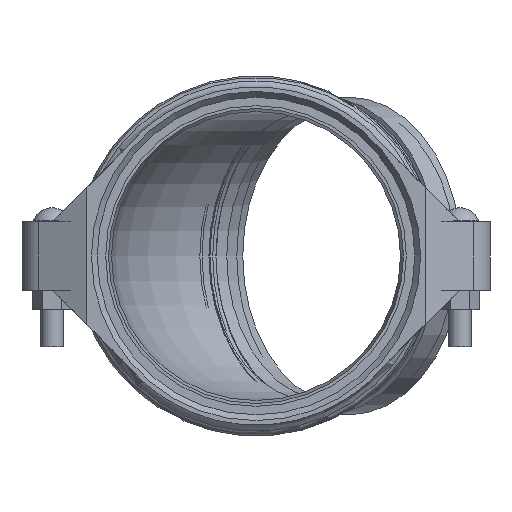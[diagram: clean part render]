
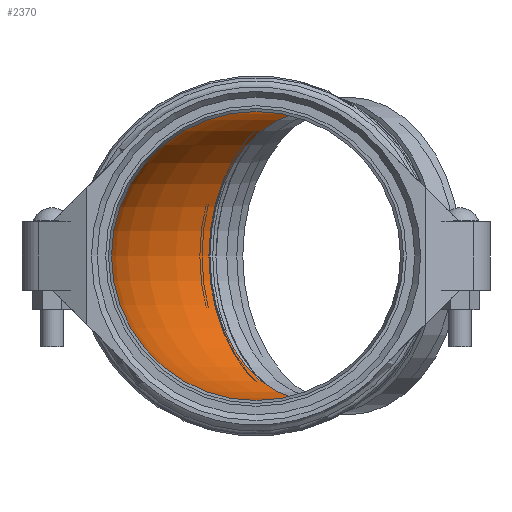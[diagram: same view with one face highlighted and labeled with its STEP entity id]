
A CAD part, left-side view. The second image highlights one B-rep face of the part: STEP entity #2370.
In plain terms, the highlighted toroidal (fillet/blend) face has major radius 214.624 mm and minor radius 161.798 mm.
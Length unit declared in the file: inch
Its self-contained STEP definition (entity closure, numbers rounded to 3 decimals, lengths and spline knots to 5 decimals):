
#76=TOROIDAL_SURFACE('',#2712,8.44975,6.37);
#528=FACE_OUTER_BOUND('',#665,.T.);
#665=EDGE_LOOP('',(#1967,#1968,#1969,#1970,#1971));
#807=CIRCLE('',#2713,6.37);
#808=CIRCLE('',#2714,2.07975);
#809=CIRCLE('',#2715,6.37);
#810=CIRCLE('',#2716,6.37);
#1050=VERTEX_POINT('',#4454);
#1051=VERTEX_POINT('',#4456);
#1052=VERTEX_POINT('',#4458);
#1366=EDGE_CURVE('',#1050,#1050,#807,.T.);
#1367=EDGE_CURVE('',#1050,#1051,#808,.T.);
#1368=EDGE_CURVE('',#1051,#1052,#809,.T.);
#1369=EDGE_CURVE('',#1052,#1051,#810,.T.);
#1967=ORIENTED_EDGE('',*,*,#1366,.F.);
#1968=ORIENTED_EDGE('',*,*,#1367,.T.);
#1969=ORIENTED_EDGE('',*,*,#1368,.T.);
#1970=ORIENTED_EDGE('',*,*,#1369,.T.);
#1971=ORIENTED_EDGE('',*,*,#1367,.F.);
#2370=ADVANCED_FACE('',(#528),#76,.F.);
#2712=AXIS2_PLACEMENT_3D('',#4453,#3365,#3366);
#2713=AXIS2_PLACEMENT_3D('',#4455,#3367,#3368);
#2714=AXIS2_PLACEMENT_3D('',#4457,#3369,#3370);
#2715=AXIS2_PLACEMENT_3D('',#4459,#3371,#3372);
#2716=AXIS2_PLACEMENT_3D('',#4460,#3373,#3374);
#3365=DIRECTION('center_axis',(0.,0.,-1.));
#3366=DIRECTION('ref_axis',(-1.,0.,0.));
#3367=DIRECTION('center_axis',(0.,1.,0.));
#3368=DIRECTION('ref_axis',(-1.,0.,0.));
#3369=DIRECTION('center_axis',(0.,0.,-1.));
#3370=DIRECTION('ref_axis',(-1.,0.,0.));
#3371=DIRECTION('center_axis',(0.707,0.707,0.));
#3372=DIRECTION('ref_axis',(-0.707,0.707,0.));
#3373=DIRECTION('center_axis',(0.707,0.707,0.));
#3374=DIRECTION('ref_axis',(-0.707,0.707,0.));
#4453=CARTESIAN_POINT('Origin',(8.44975,-3.5,0.));
#4454=CARTESIAN_POINT('',(6.37,-3.5,0.));
#4455=CARTESIAN_POINT('Origin',(0.,-3.5,0.));
#4456=CARTESIAN_POINT('',(6.97914,-2.0294,0.));
#4457=CARTESIAN_POINT('Origin',(8.44975,-3.5,0.));
#4458=CARTESIAN_POINT('',(2.47487,2.47487,6.37));
#4459=CARTESIAN_POINT('Origin',(2.47487,2.47487,0.));
#4460=CARTESIAN_POINT('Origin',(2.47487,2.47487,0.));
